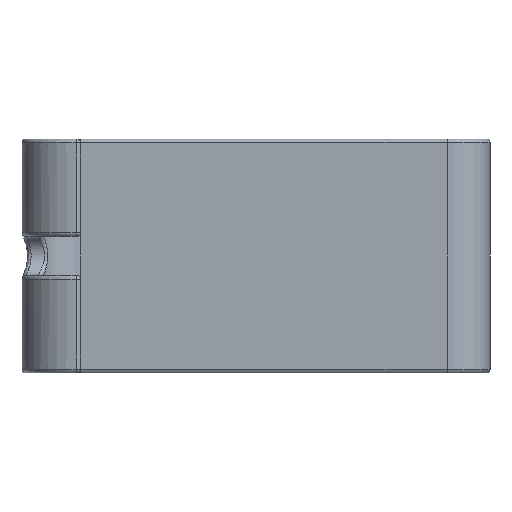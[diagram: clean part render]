
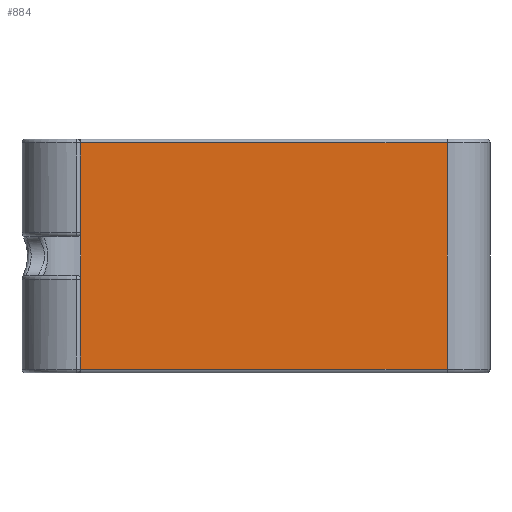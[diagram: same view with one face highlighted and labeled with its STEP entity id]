
A CAD part, front view. The second image highlights one B-rep face of the part: STEP entity #884.
In plain terms, the highlighted planar face has unit normal (0, -1, 0).
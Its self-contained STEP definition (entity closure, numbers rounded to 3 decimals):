
#21=PLANE('',#994);
#81=FACE_OUTER_BOUND('',#141,.T.);
#141=EDGE_LOOP('',(#667,#668,#669,#670));
#191=LINE('',#1474,#245);
#206=LINE('',#1532,#260);
#208=LINE('',#1554,#262);
#209=LINE('',#1555,#263);
#245=VECTOR('',#1152,10.);
#260=VECTOR('',#1207,10.);
#262=VECTOR('',#1217,10.);
#263=VECTOR('',#1218,10.);
#383=VERTEX_POINT('',#1464);
#385=VERTEX_POINT('',#1470);
#400=VERTEX_POINT('',#1531);
#405=VERTEX_POINT('',#1553);
#472=EDGE_CURVE('',#383,#385,#191,.T.);
#497=EDGE_CURVE('',#385,#400,#206,.T.);
#503=EDGE_CURVE('',#405,#383,#208,.T.);
#504=EDGE_CURVE('',#400,#405,#209,.T.);
#667=ORIENTED_EDGE('',*,*,#472,.F.);
#668=ORIENTED_EDGE('',*,*,#503,.F.);
#669=ORIENTED_EDGE('',*,*,#504,.F.);
#670=ORIENTED_EDGE('',*,*,#497,.F.);
#884=ADVANCED_FACE('',(#81),#21,.T.);
#994=AXIS2_PLACEMENT_3D('',#1552,#1215,#1216);
#1152=DIRECTION('',(-1.,0.,0.));
#1207=DIRECTION('',(0.,0.,1.));
#1215=DIRECTION('center_axis',(0.,-1.,0.));
#1216=DIRECTION('ref_axis',(1.,0.,0.));
#1217=DIRECTION('',(0.,0.,-1.));
#1218=DIRECTION('',(1.,0.,0.));
#1464=CARTESIAN_POINT('',(6.5,-27.5,0.5));
#1470=CARTESIAN_POINT('',(-40.5,-27.5,0.5));
#1474=CARTESIAN_POINT('',(-29.25,-27.5,0.5));
#1531=CARTESIAN_POINT('',(-40.5,-27.5,29.5));
#1532=CARTESIAN_POINT('',(-40.5,-27.5,0.));
#1552=CARTESIAN_POINT('Origin',(-40.5,-27.5,0.));
#1553=CARTESIAN_POINT('',(6.5,-27.5,29.5));
#1554=CARTESIAN_POINT('',(6.5,-27.5,0.));
#1555=CARTESIAN_POINT('',(-29.25,-27.5,29.5));
